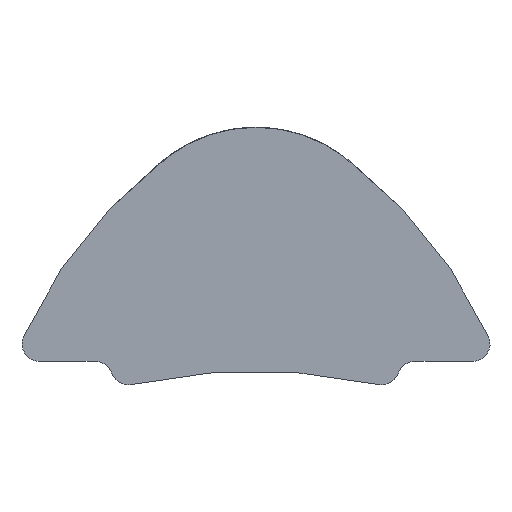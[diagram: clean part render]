
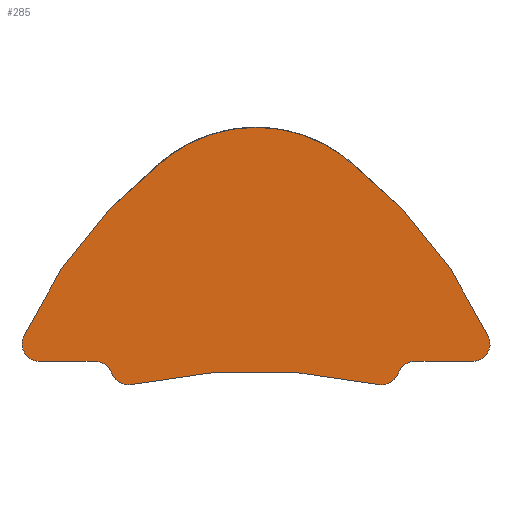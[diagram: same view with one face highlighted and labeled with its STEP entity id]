
A CAD part, front view. The second image highlights one B-rep face of the part: STEP entity #285.
In plain terms, the highlighted planar face has unit normal (0, -1, 0).
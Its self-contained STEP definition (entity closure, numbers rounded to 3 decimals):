
#9 = DIRECTION ( 'NONE',  ( -0.943, 0., 0.333 ) ) ;
#19 = ORIENTED_EDGE ( 'NONE', *, *, #144, .T. ) ;
#20 = CARTESIAN_POINT ( 'NONE',  ( -3.683, -8.5, 0. ) ) ;
#24 = DIRECTION ( 'NONE',  ( -1., 0., 0. ) ) ;
#28 = CARTESIAN_POINT ( 'NONE',  ( 3.323, -8.5, -2.896 ) ) ;
#35 = CARTESIAN_POINT ( 'NONE',  ( -2.135, -8.5, -0.4 ) ) ;
#40 = AXIS2_PLACEMENT_3D ( 'NONE', #723, #307, #784 ) ;
#45 = DIRECTION ( 'NONE',  ( -1., 0., 0. ) ) ;
#63 = CARTESIAN_POINT ( 'NONE',  ( 2.733, -8.5, -0.3 ) ) ;
#64 = DIRECTION ( 'NONE',  ( 0., 0., -1. ) ) ;
#68 = CARTESIAN_POINT ( 'NONE',  ( 3.717, -8.5, 0. ) ) ;
#69 = VERTEX_POINT ( 'NONE', #603 ) ;
#83 = DIRECTION ( 'NONE',  ( -0.91, 0., 0.415 ) ) ;
#90 = VERTEX_POINT ( 'NONE', #599 ) ;
#92 = VECTOR ( 'NONE', #24, 1000. ) ;
#98 = CARTESIAN_POINT ( 'NONE',  ( -3.288, -8.5, -2.896 ) ) ;
#102 = DIRECTION ( 'NONE',  ( 0., 1., 0. ) ) ;
#104 = CARTESIAN_POINT ( 'NONE',  ( -2.733, -8.5, 0. ) ) ;
#108 = CARTESIAN_POINT ( 'NONE',  ( -3.956, -8.5, 0.425 ) ) ;
#113 = VERTEX_POINT ( 'NONE', #108 ) ;
#119 = LINE ( 'NONE', #659, #143 ) ;
#143 = VECTOR ( 'NONE', #45, 1000. ) ;
#144 = EDGE_CURVE ( 'NONE', #426, #90, #709, .T. ) ;
#152 = DIRECTION ( 'NONE',  ( 0., 1., 0. ) ) ;
#156 = CIRCLE ( 'NONE', #490, 0.3 ) ;
#157 = CARTESIAN_POINT ( 'NONE',  ( 2.733, -8.5, 0. ) ) ;
#167 = CARTESIAN_POINT ( 'NONE',  ( 2.167, -8.5, -0.1 ) ) ;
#173 = ORIENTED_EDGE ( 'NONE', *, *, #437, .T. ) ;
#177 = VECTOR ( 'NONE', #336, 1000. ) ;
#183 = FACE_OUTER_BOUND ( 'NONE', #764, .T. ) ;
#193 = ORIENTED_EDGE ( 'NONE', *, *, #554, .F. ) ;
#198 = DIRECTION ( 'NONE',  ( 0., 1., 0. ) ) ;
#200 = ORIENTED_EDGE ( 'NONE', *, *, #733, .F. ) ;
#204 = CARTESIAN_POINT ( 'NONE',  ( -3.683, -8.5, 0.3 ) ) ;
#217 = CARTESIAN_POINT ( 'NONE',  ( -2.167, -8.5, -0.1 ) ) ;
#241 = CARTESIAN_POINT ( 'NONE',  ( -4., -8.5, 4.015 ) ) ;
#251 = CARTESIAN_POINT ( 'NONE',  ( 2.135, -8.5, -0.4 ) ) ;
#266 = LINE ( 'NONE', #409, #632 ) ;
#270 = DIRECTION ( 'NONE',  ( -1., 0., 0. ) ) ;
#271 = VERTEX_POINT ( 'NONE', #68 ) ;
#285 = ADVANCED_FACE ( 'NONE', ( #183 ), #506, .T. ) ;
#295 = AXIS2_PLACEMENT_3D ( 'NONE', #664, #353, #473 ) ;
#307 = DIRECTION ( 'NONE',  ( 0., 1., 0. ) ) ;
#309 = VERTEX_POINT ( 'NONE', #573 ) ;
#313 = DIRECTION ( 'NONE',  ( 0., -1., 0. ) ) ;
#314 = VERTEX_POINT ( 'NONE', #625 ) ;
#315 = DIRECTION ( 'NONE',  ( -0.91, 0., 0.415 ) ) ;
#321 = CIRCLE ( 'NONE', #686, 0.3 ) ;
#323 = CARTESIAN_POINT ( 'NONE',  ( -2.167, -8.5, -0.4 ) ) ;
#331 = CARTESIAN_POINT ( 'NONE',  ( -2.167, -8.5, -0.4 ) ) ;
#336 = DIRECTION ( 'NONE',  ( -1., 0., 0. ) ) ;
#346 = EDGE_CURVE ( 'NONE', #515, #90, #464, .T. ) ;
#348 = EDGE_CURVE ( 'NONE', #271, #363, #580, .T. ) ;
#353 = DIRECTION ( 'NONE',  ( 0., 1., 0. ) ) ;
#363 = VERTEX_POINT ( 'NONE', #157 ) ;
#368 = ORIENTED_EDGE ( 'NONE', *, *, #375, .F. ) ;
#375 = EDGE_CURVE ( 'NONE', #314, #555, #266, .T. ) ;
#389 = CIRCLE ( 'NONE', #40, 2.5 ) ;
#390 = CIRCLE ( 'NONE', #673, 0.3 ) ;
#401 = EDGE_CURVE ( 'NONE', #481, #69, #389, .T. ) ;
#405 = CIRCLE ( 'NONE', #466, 8. ) ;
#409 = CARTESIAN_POINT ( 'NONE',  ( 2.167, -8.5, -0.4 ) ) ;
#414 = DIRECTION ( 'NONE',  ( 0., 1., 0. ) ) ;
#419 = ORIENTED_EDGE ( 'NONE', *, *, #479, .F. ) ;
#422 = EDGE_CURVE ( 'NONE', #309, #314, #156, .T. ) ;
#426 = VERTEX_POINT ( 'NONE', #104 ) ;
#437 = EDGE_CURVE ( 'NONE', #737, #555, #607, .T. ) ;
#441 = CARTESIAN_POINT ( 'NONE',  ( -1.485, -8.5, 3.498 ) ) ;
#448 = ORIENTED_EDGE ( 'NONE', *, *, #346, .F. ) ;
#463 = CARTESIAN_POINT ( 'NONE',  ( 2.733, -8.5, 0. ) ) ;
#464 = CIRCLE ( 'NONE', #778, 0.3 ) ;
#466 = AXIS2_PLACEMENT_3D ( 'NONE', #28, #198, #315 ) ;
#472 = DIRECTION ( 'NONE',  ( 0., 1., 0. ) ) ;
#473 = DIRECTION ( 'NONE',  ( 0., 0., 1. ) ) ;
#479 = EDGE_CURVE ( 'NONE', #426, #689, #119, .T. ) ;
#481 = VERTEX_POINT ( 'NONE', #441 ) ;
#490 = AXIS2_PLACEMENT_3D ( 'NONE', #167, #472, #598 ) ;
#495 = EDGE_CURVE ( 'NONE', #309, #363, #321, .T. ) ;
#503 = CARTESIAN_POINT ( 'NONE',  ( 3.717, -8.5, 0.3 ) ) ;
#504 = AXIS2_PLACEMENT_3D ( 'NONE', #98, #102, #535 ) ;
#506 = PLANE ( 'NONE',  #558 ) ;
#507 = ORIENTED_EDGE ( 'NONE', *, *, #348, .F. ) ;
#515 = VERTEX_POINT ( 'NONE', #331 ) ;
#531 = AXIS2_PLACEMENT_3D ( 'NONE', #503, #566, #755 ) ;
#533 = CARTESIAN_POINT ( 'NONE',  ( 0., -8.5, -10.067 ) ) ;
#535 = DIRECTION ( 'NONE',  ( 0.601, 0., 0.799 ) ) ;
#538 = ORIENTED_EDGE ( 'NONE', *, *, #422, .F. ) ;
#554 = EDGE_CURVE ( 'NONE', #689, #113, #390, .T. ) ;
#555 = VERTEX_POINT ( 'NONE', #251 ) ;
#558 = AXIS2_PLACEMENT_3D ( 'NONE', #241, #313, #64 ) ;
#560 = ORIENTED_EDGE ( 'NONE', *, *, #401, .F. ) ;
#562 = DIRECTION ( 'NONE',  ( 0., 1., 0. ) ) ;
#566 = DIRECTION ( 'NONE',  ( 0., 1., 0. ) ) ;
#573 = CARTESIAN_POINT ( 'NONE',  ( 2.45, -8.5, -0.2 ) ) ;
#580 = LINE ( 'NONE', #463, #177 ) ;
#584 = CIRCLE ( 'NONE', #504, 8. ) ;
#588 = DIRECTION ( 'NONE',  ( -0.943, 0., -0.333 ) ) ;
#596 = VERTEX_POINT ( 'NONE', #697 ) ;
#598 = DIRECTION ( 'NONE',  ( 0., 0., -1. ) ) ;
#599 = CARTESIAN_POINT ( 'NONE',  ( -2.45, -8.5, -0.2 ) ) ;
#603 = CARTESIAN_POINT ( 'NONE',  ( 1.52, -8.5, 3.498 ) ) ;
#607 = CIRCLE ( 'NONE', #780, 9.9 ) ;
#613 = EDGE_CURVE ( 'NONE', #113, #481, #405, .T. ) ;
#623 = EDGE_CURVE ( 'NONE', #596, #271, #633, .T. ) ;
#624 = DIRECTION ( 'NONE',  ( 0., 1., 0. ) ) ;
#625 = CARTESIAN_POINT ( 'NONE',  ( 2.167, -8.5, -0.4 ) ) ;
#632 = VECTOR ( 'NONE', #270, 1000. ) ;
#633 = CIRCLE ( 'NONE', #531, 0.3 ) ;
#635 = ORIENTED_EDGE ( 'NONE', *, *, #613, .F. ) ;
#659 = CARTESIAN_POINT ( 'NONE',  ( -3.683, -8.5, 0. ) ) ;
#663 = DIRECTION ( 'NONE',  ( 0.216, 0., 0.976 ) ) ;
#664 = CARTESIAN_POINT ( 'NONE',  ( -2.733, -8.5, -0.3 ) ) ;
#671 = ORIENTED_EDGE ( 'NONE', *, *, #495, .T. ) ;
#673 = AXIS2_PLACEMENT_3D ( 'NONE', #204, #624, #83 ) ;
#686 = AXIS2_PLACEMENT_3D ( 'NONE', #63, #562, #9 ) ;
#687 = EDGE_CURVE ( 'NONE', #737, #515, #762, .T. ) ;
#689 = VERTEX_POINT ( 'NONE', #20 ) ;
#697 = CARTESIAN_POINT ( 'NONE',  ( 3.99, -8.5, 0.425 ) ) ;
#708 = ORIENTED_EDGE ( 'NONE', *, *, #623, .F. ) ;
#709 = CIRCLE ( 'NONE', #295, 0.3 ) ;
#723 = CARTESIAN_POINT ( 'NONE',  ( 0.017, -8.5, 1.5 ) ) ;
#733 = EDGE_CURVE ( 'NONE', #69, #596, #584, .T. ) ;
#737 = VERTEX_POINT ( 'NONE', #35 ) ;
#755 = DIRECTION ( 'NONE',  ( 0., 0., -1. ) ) ;
#762 = LINE ( 'NONE', #323, #92 ) ;
#764 = EDGE_LOOP ( 'NONE', ( #635, #193, #419, #19, #448, #795, #173, #368, #538, #671, #507, #708, #200, #560 ) ) ;
#778 = AXIS2_PLACEMENT_3D ( 'NONE', #217, #152, #588 ) ;
#780 = AXIS2_PLACEMENT_3D ( 'NONE', #533, #414, #663 ) ;
#784 = DIRECTION ( 'NONE',  ( -0.601, 0., 0.799 ) ) ;
#795 = ORIENTED_EDGE ( 'NONE', *, *, #687, .F. ) ;
